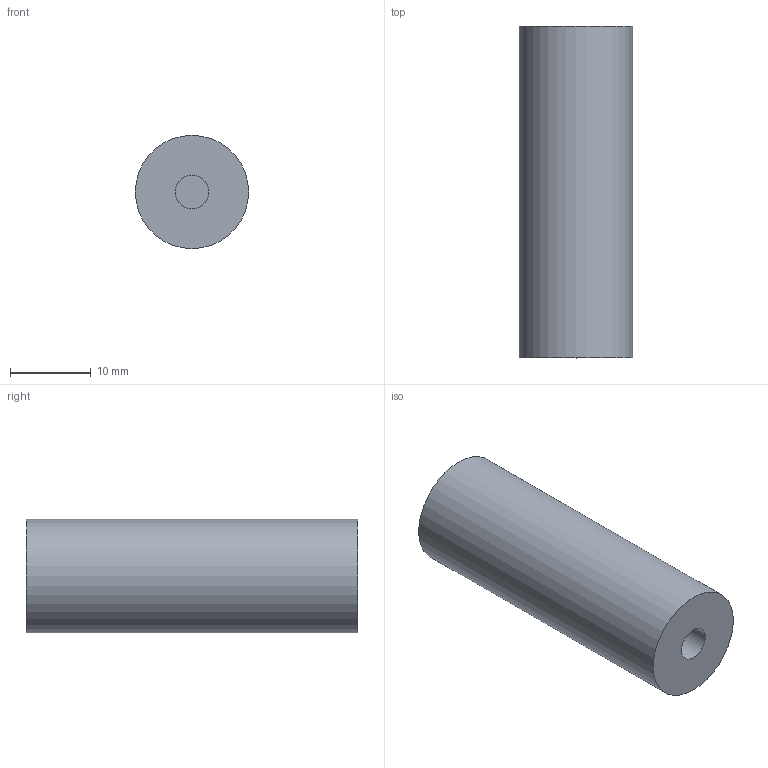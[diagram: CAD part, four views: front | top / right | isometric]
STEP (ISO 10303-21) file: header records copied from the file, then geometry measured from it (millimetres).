
FILE_DESCRIPTION(('Open CASCADE Model'),'2;1');
FILE_NAME('Open CASCADE Shape Model','2026-10-18T22:58:43',('Author'),( 'Open CASCADE'),'Open CASCADE STEP processor 7.9','Open CASCADE 7.9' ,'Unknown');
FILE_SCHEMA(('AUTOMOTIVE_DESIGN { 1 0 10303 214 1 1 1 1 }'));
Length unit declared in the file: millimetre
Products named in the file (1): Open CASCADE STEP translator 7.9 37
Bounding box: 14 x 41 x 14 mm (x, y, z)
Volume: 6017.7 mm3; surface area: 2390.9 mm2
Topology: 1 solids, 1 shells, 7 faces, 9 edges, 6 vertices
Faces by surface type: plane 4, cylinder 3
Full cylindrical faces by diameter (mm): 4.2 x2, 14 x1
Entity records: 279 total; most frequent: DIRECTION 48, CARTESIAN_POINT 47, ORIENTED_EDGE 18, PCURVE 18, DEFINITIONAL_REPRESENTATION 18, LINE 15, VECTOR 15, AXIS2_PLACEMENT_3D 14
